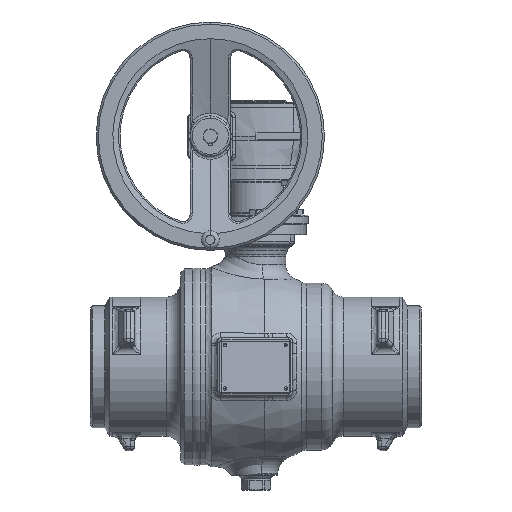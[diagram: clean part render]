
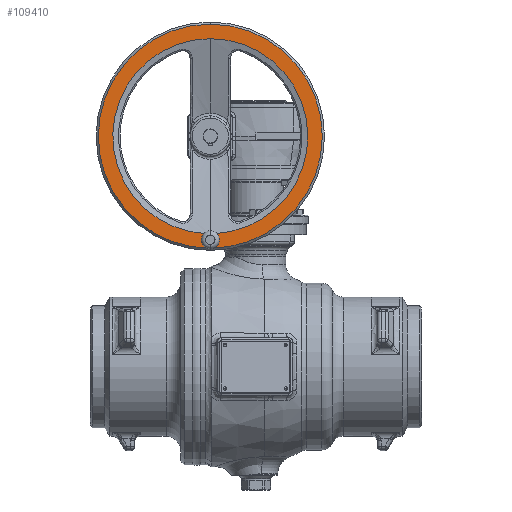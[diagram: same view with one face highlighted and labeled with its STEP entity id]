
A CAD part, front view. The second image highlights one B-rep face of the part: STEP entity #109410.
In plain terms, the highlighted planar face has unit normal (0, -1, 0) as drawn and (1, 0, 0) by its records, which use the part's own axes.
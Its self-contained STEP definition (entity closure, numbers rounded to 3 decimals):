
#106340=CARTESIAN_POINT('',(56.,0.,0.));
#106341=DIRECTION('',(-1.,0.,0.));
#106342=DIRECTION('',(0.,0.,-1.));
#106343=AXIS2_PLACEMENT_3D('',#106340,#106341,#106342);
#106345=CARTESIAN_POINT('',(56.,0.,0.));
#106346=DIRECTION('',(-1.,0.,0.));
#106347=DIRECTION('',(0.,0.,1.));
#106348=AXIS2_PLACEMENT_3D('',#106345,#106346,#106347);
#106350=CARTESIAN_POINT('',(56.,0.,-143.));
#106351=DIRECTION('',(1.,0.,0.));
#106352=DIRECTION('',(0.,0.,-1.));
#106353=AXIS2_PLACEMENT_3D('',#106350,#106351,#106352);
#106355=CARTESIAN_POINT('',(56.,0.,0.));
#106356=DIRECTION('',(1.,0.,0.));
#106357=DIRECTION('',(0.,0.05,-0.999));
#106358=AXIS2_PLACEMENT_3D('',#106355,#106356,#106357);
#106360=CARTESIAN_POINT('',(56.,0.,0.));
#106361=DIRECTION('',(1.,0.,0.));
#106362=DIRECTION('',(0.,0.,1.));
#106363=AXIS2_PLACEMENT_3D('',#106360,#106361,#106362);
#106365=CARTESIAN_POINT('',(56.,0.,-143.));
#106366=DIRECTION('',(1.,0.,0.));
#106367=DIRECTION('',(0.,-0.615,0.788));
#106368=AXIS2_PLACEMENT_3D('',#106365,#106366,#106367);
#106800=CARTESIAN_POINT('',(56.,-6.769,-134.33));
#106802=VERTEX_POINT('',#106800);
#106804=CARTESIAN_POINT('',(56.,0.,134.5));
#106805=VERTEX_POINT('',#106804);
#106820=CARTESIAN_POINT('',(56.,6.769,-134.33));
#106821=VERTEX_POINT('',#106820);
#107017=CARTESIAN_POINT('',(56.,0.,-154.5));
#107018=VERTEX_POINT('',#107017);
#107019=CARTESIAN_POINT('',(56.,0.,154.5));
#107020=VERTEX_POINT('',#107019);
#107021=CARTESIAN_POINT('',(56.,0.,-154.));
#107022=VERTEX_POINT('',#107021);
#109393=CARTESIAN_POINT('',(56.,0.,0.));
#109394=DIRECTION('',(1.,0.,0.));
#109395=DIRECTION('',(0.,0.,-1.));
#109396=AXIS2_PLACEMENT_3D('',#109393,#109394,#109395);
#109397=PLANE('',#109396);
#109398=ORIENTED_EDGE('',*,*,#109375,.T.);
#109399=ORIENTED_EDGE('',*,*,#109360,.T.);
#109400=EDGE_LOOP('',(#109398,#109399));
#109401=FACE_OUTER_BOUND('',#109400,.F.);
#109403=ORIENTED_EDGE('',*,*,#109402,.T.);
#109404=ORIENTED_EDGE('',*,*,#107134,.T.);
#109405=ORIENTED_EDGE('',*,*,#107070,.T.);
#109407=ORIENTED_EDGE('',*,*,#109406,.T.);
#109408=EDGE_LOOP('',(#109403,#109404,#109405,#109407));
#109409=FACE_BOUND('',#109408,.F.);
#109410=ADVANCED_FACE('',(#109401,#109409),#109397,.T.);
#106344=CIRCLE('',#106343,154.5);
#106349=CIRCLE('',#106348,154.5);
#106354=CIRCLE('',#106353,11.);
#106359=CIRCLE('',#106358,134.5);
#106364=CIRCLE('',#106363,134.5);
#106369=CIRCLE('',#106368,11.);
#107070=EDGE_CURVE('',#106805,#106802,#106364,.T.);
#107134=EDGE_CURVE('',#106821,#106805,#106359,.T.);
#109360=EDGE_CURVE('',#107020,#107018,#106349,.T.);
#109375=EDGE_CURVE('',#107018,#107020,#106344,.T.);
#109402=EDGE_CURVE('',#107022,#106821,#106354,.T.);
#109406=EDGE_CURVE('',#106802,#107022,#106369,.T.);
